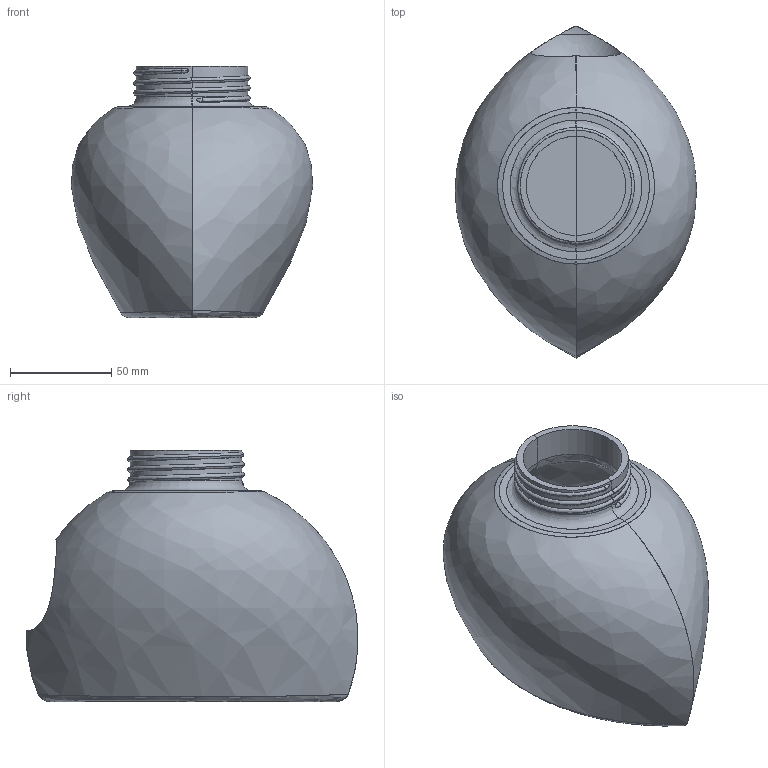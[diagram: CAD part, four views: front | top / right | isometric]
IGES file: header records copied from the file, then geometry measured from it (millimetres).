
Start section: START RECORD GO HERE.
Global section: file name: c1-Blancafort_Lloret_Marina-solucion-posible.igs; native system: IBM CATIA IGES - CATIA Version 5 Release 19 ; preprocessor: CATIA Version 5 Release 19 ; author: andres.garcia; organization: IQS; date: 20200131.143911; units: millimetre
Bounding box: 119.03 x 163.76 x 124 mm (x, y, z)
Surface area: 110370.2 mm2 (no closed solid volume)
Topology: 0 solids, 0 shells, 54 faces, 252 edges, 248 vertices
Faces by surface type: bspline 32, revolution 16, plane 6
